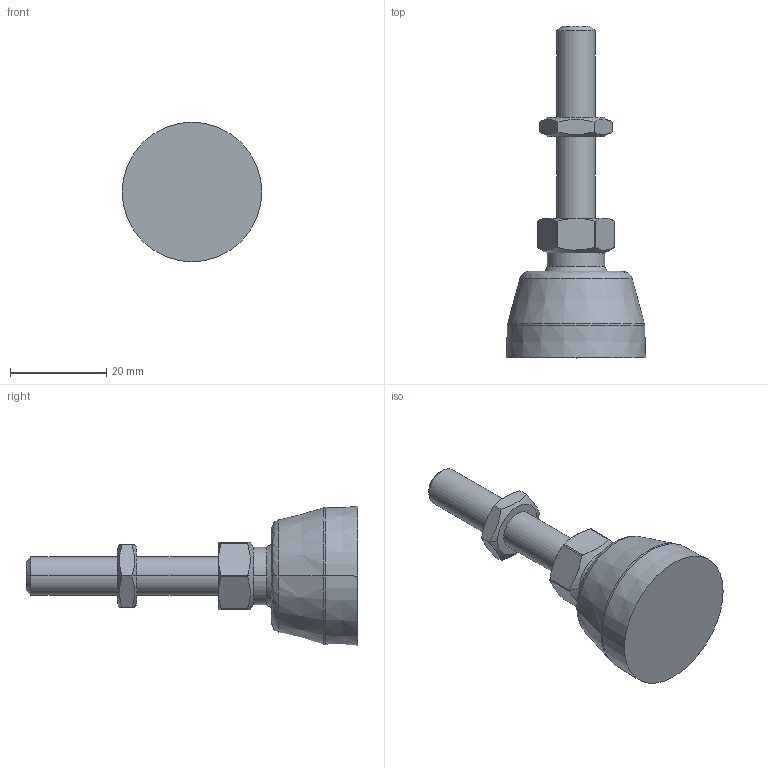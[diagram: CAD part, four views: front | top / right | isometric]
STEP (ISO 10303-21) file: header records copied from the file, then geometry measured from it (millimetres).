
FILE_DESCRIPTION (( 'STEP AP203' ), '1' );
FILE_NAME ('50140_STE8.30M870.STEP', '2018-03-16T10:05:26', ( '' ), ( '' ), 'SwSTEP 2.0', 'SolidWorks 2017', '' );
FILE_SCHEMA (( 'CONFIG_CONTROL_DESIGN' ));
Length unit declared in the file: millimetre
Products named in the file (1): 50140_STE8.30M870
Bounding box: 29 x 69 x 29 mm (x, y, z)
Volume: 14106 mm3; surface area: 4693.2 mm2
Topology: 1 solids, 1 shells, 72 faces, 162 edges, 97 vertices
Faces by surface type: plane 24, cone 19, cylinder 15, bspline 14
Entity records: 2681 total; most frequent: CARTESIAN_POINT 1100, ORIENTED_EDGE 324, DIRECTION 302, EDGE_CURVE 162, AXIS2_PLACEMENT_3D 131, VERTEX_POINT 97, EDGE_LOOP 77, FACE_OUTER_BOUND 72
